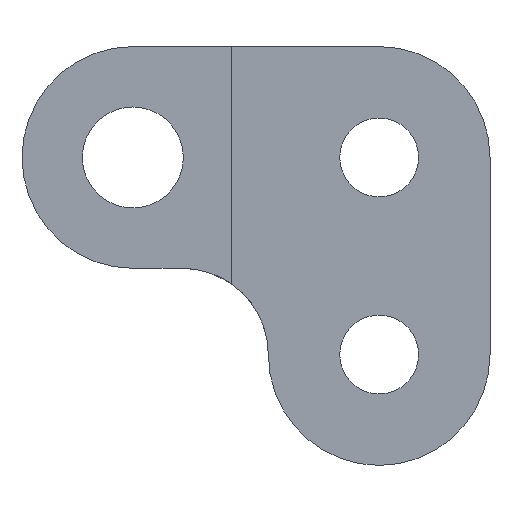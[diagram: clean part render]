
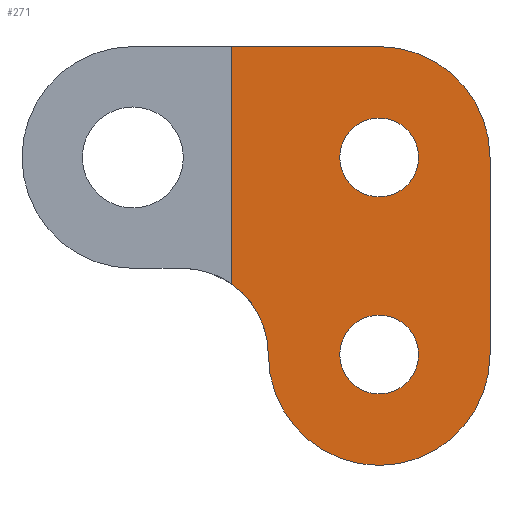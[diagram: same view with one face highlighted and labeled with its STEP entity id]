
A CAD part, left-side view. The second image highlights one B-rep face of the part: STEP entity #271.
In plain terms, the highlighted planar face has unit normal (-1, 0, 0).
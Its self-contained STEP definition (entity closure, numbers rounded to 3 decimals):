
#19=FACE_BOUND('',#60,.T.);
#20=FACE_BOUND('',#61,.T.);
#27=PLANE('',#314);
#41=FACE_OUTER_BOUND('',#59,.T.);
#59=EDGE_LOOP('',(#243,#244,#245,#246,#247,#248));
#60=EDGE_LOOP('',(#249));
#61=EDGE_LOOP('',(#250));
#69=LINE('',#427,#90);
#75=LINE('',#452,#96);
#81=LINE('',#466,#102);
#90=VECTOR('',#346,10.);
#96=VECTOR('',#372,10.);
#102=VECTOR('',#388,10.);
#104=CIRCLE('',#287,3.5);
#108=CIRCLE('',#292,1.6);
#110=CIRCLE('',#295,4.5);
#112=CIRCLE('',#299,4.5);
#118=CIRCLE('',#310,1.6);
#119=VERTEX_POINT('',#398);
#120=VERTEX_POINT('',#399);
#126=VERTEX_POINT('',#413);
#128=VERTEX_POINT('',#419);
#130=VERTEX_POINT('',#425);
#132=VERTEX_POINT('',#431);
#139=VERTEX_POINT('',#451);
#142=VERTEX_POINT('',#461);
#143=EDGE_CURVE('',#119,#120,#104,.F.);
#151=EDGE_CURVE('',#126,#126,#108,.T.);
#154=EDGE_CURVE('',#120,#128,#110,.T.);
#157=EDGE_CURVE('',#128,#130,#69,.T.);
#160=EDGE_CURVE('',#130,#132,#112,.T.);
#169=EDGE_CURVE('',#139,#119,#75,.F.);
#175=EDGE_CURVE('',#142,#142,#118,.T.);
#177=EDGE_CURVE('',#132,#139,#81,.T.);
#243=ORIENTED_EDGE('',*,*,#169,.T.);
#244=ORIENTED_EDGE('',*,*,#143,.T.);
#245=ORIENTED_EDGE('',*,*,#154,.T.);
#246=ORIENTED_EDGE('',*,*,#157,.T.);
#247=ORIENTED_EDGE('',*,*,#160,.T.);
#248=ORIENTED_EDGE('',*,*,#177,.T.);
#249=ORIENTED_EDGE('',*,*,#151,.T.);
#250=ORIENTED_EDGE('',*,*,#175,.T.);
#271=ADVANCED_FACE('',(#41,#19,#20),#27,.T.);
#287=AXIS2_PLACEMENT_3D('',#400,#319,#320);
#292=AXIS2_PLACEMENT_3D('',#415,#333,#334);
#295=AXIS2_PLACEMENT_3D('',#421,#340,#341);
#299=AXIS2_PLACEMENT_3D('',#433,#352,#353);
#310=AXIS2_PLACEMENT_3D('',#463,#383,#384);
#314=AXIS2_PLACEMENT_3D('',#470,#394,#395);
#319=DIRECTION('center_axis',(-1.,0.,0.));
#320=DIRECTION('ref_axis',(0.,-0.707,0.707));
#333=DIRECTION('center_axis',(1.,0.,0.));
#334=DIRECTION('ref_axis',(0.,1.,0.));
#340=DIRECTION('center_axis',(-1.,0.,0.));
#341=DIRECTION('ref_axis',(0.,-1.,0.));
#346=DIRECTION('',(0.,0.,1.));
#352=DIRECTION('center_axis',(-1.,0.,0.));
#353=DIRECTION('ref_axis',(0.,0.,-1.));
#372=DIRECTION('',(0.,0.,1.));
#383=DIRECTION('center_axis',(1.,0.,0.));
#384=DIRECTION('ref_axis',(0.,-1.,0.));
#388=DIRECTION('',(0.,1.,0.));
#394=DIRECTION('center_axis',(-1.,0.,0.));
#395=DIRECTION('ref_axis',(0.,-1.,0.));
#398=CARTESIAN_POINT('',(30.426,-329.,48.956));
#399=CARTESIAN_POINT('',(30.426,-330.5,46.084));
#400=CARTESIAN_POINT('Origin',(30.426,-327.,46.084));
#413=CARTESIAN_POINT('',(30.426,-336.6,46.084));
#415=CARTESIAN_POINT('Origin',(30.426,-335.,46.084));
#419=CARTESIAN_POINT('',(30.426,-339.5,46.084));
#421=CARTESIAN_POINT('Origin',(30.426,-335.,46.084));
#425=CARTESIAN_POINT('',(30.426,-339.5,54.084));
#427=CARTESIAN_POINT('',(30.426,-339.5,54.084));
#431=CARTESIAN_POINT('',(30.426,-335.,58.584));
#433=CARTESIAN_POINT('Origin',(30.426,-335.,54.084));
#451=CARTESIAN_POINT('',(30.426,-329.,58.584));
#452=CARTESIAN_POINT('',(30.426,-329.,56.334));
#461=CARTESIAN_POINT('',(30.426,-333.4,54.084));
#463=CARTESIAN_POINT('Origin',(30.426,-335.,54.084));
#466=CARTESIAN_POINT('',(30.426,-335.,58.584));
#470=CARTESIAN_POINT('Origin',(30.426,-330.,54.084));
